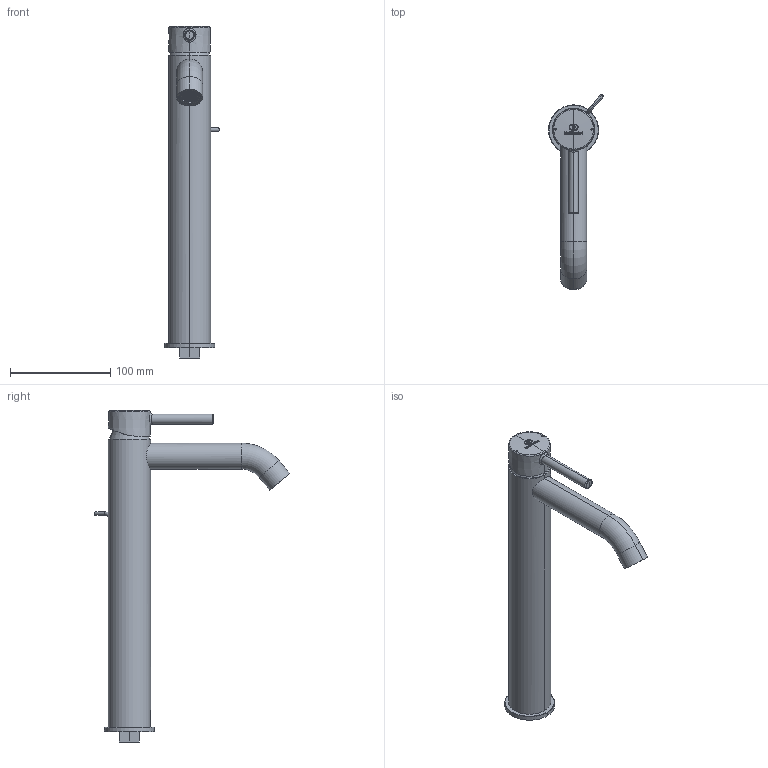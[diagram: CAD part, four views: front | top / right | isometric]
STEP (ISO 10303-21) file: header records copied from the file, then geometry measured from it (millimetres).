
FILE_DESCRIPTION((''),'2;1');
FILE_NAME('BC194AA_3DPL','2022-05-08T11:49:43',('HristovG'),('IDEAL STANDARD BVBA'),'CREO PARAMETRIC BY PTC INC, 2020281','CREO PARAMETRIC BY PTC INC, 2020281','');
FILE_SCHEMA(('AP242_MANAGED_MODEL_BASED_3D_ENGINEERING_MIM_LF { 1 0 10303 442 1 1 4 }'));
Length unit declared in the file: millimetre
Products named in the file (1): BC194AA_3DPL
Bounding box: 54.78 x 195.05 x 331.56 mm (x, y, z)
Volume: 522688.9 mm3; surface area: 63639.5 mm2
Topology: 1 solids, 5 shells, 1092 faces, 2622 edges, 1564 vertices
Faces by surface type: plane 612, cylinder 355, torus 44, extrusion 32, sphere 31, cone 14, bspline 4
Entity records: 36292 total; most frequent: CARTESIAN_POINT 10743, ORIENTED_EDGE 5202, DIRECTION 4497, EDGE_CURVE 2607, VECTOR 1651, LINE 1619, VERTEX_POINT 1554, AXIS2_PLACEMENT_3D 1423
